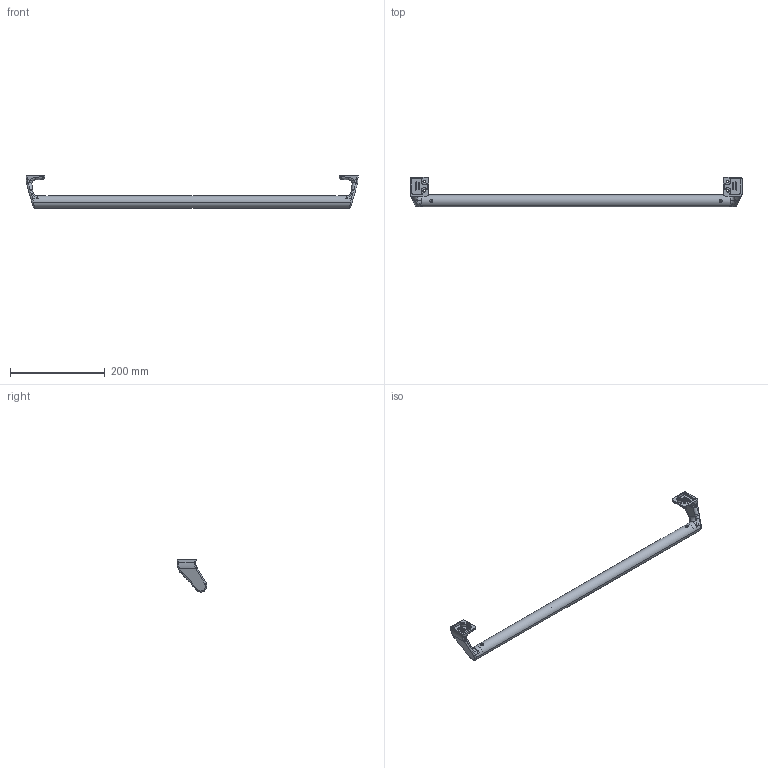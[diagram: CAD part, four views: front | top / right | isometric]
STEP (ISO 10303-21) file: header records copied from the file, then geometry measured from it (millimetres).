
FILE_DESCRIPTION (( 'STEP AP214' ), '1' );
FILE_NAME ('A73 KA-1223-5.STEP', '2016-11-24T02:35:56', ( '' ), ( '' ), 'SwSTEP 2.0', 'SolidWorks 2011', '' );
FILE_SCHEMA (( 'AUTOMOTIVE_DESIGN' ));
Length unit declared in the file: millimetre
Products named in the file (1): A73 KA-1223-5
Bounding box: 700 x 62.8 x 67.8 mm (x, y, z)
Volume: 157245.4 mm3; surface area: 120343.3 mm2
Topology: 1 solids, 1 shells, 520 faces, 1374 edges, 876 vertices
Faces by surface type: plane 254, bspline 146, cylinder 92, cone 28
Entity records: 23944 total; most frequent: CARTESIAN_POINT 12019, ORIENTED_EDGE 2724, DIRECTION 1936, EDGE_CURVE 1362, VERTEX_POINT 876, LINE 850, VECTOR 850, EDGE_LOOP 566
